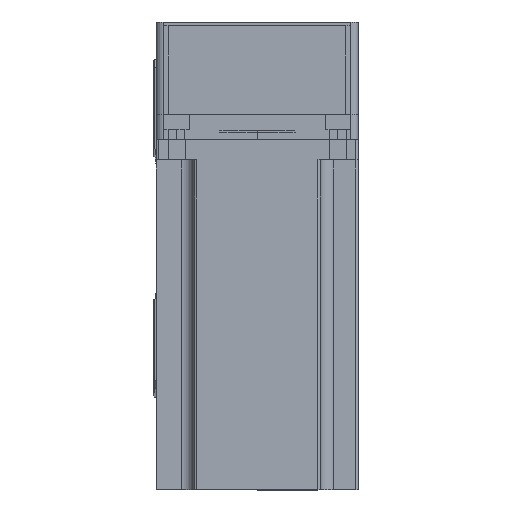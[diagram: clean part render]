
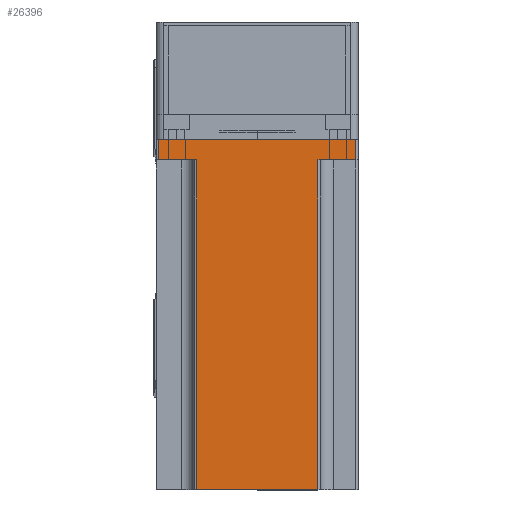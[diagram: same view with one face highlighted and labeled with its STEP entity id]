
A CAD part, top view. The second image highlights one B-rep face of the part: STEP entity #26396.
In plain terms, the highlighted planar face has unit normal (0, 0, 1) as drawn and (0, 1, 0) by its records, which use the part's own axes.
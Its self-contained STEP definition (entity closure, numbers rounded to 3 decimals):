
#524 = ORIENTED_EDGE ( 'NONE', *, *, #5468, .F. ) ;
#1553 = DIRECTION ( 'NONE',  ( 0., 0., -1. ) ) ;
#1558 = CARTESIAN_POINT ( 'NONE',  ( -24., 40., 8. ) ) ;
#4128 = CARTESIAN_POINT ( 'NONE',  ( 40., 40., 0. ) ) ;
#5183 = VERTEX_POINT ( 'NONE', #41457 ) ;
#5468 = EDGE_CURVE ( 'NONE', #19927, #46653, #57691, .T. ) ;
#6178 = AXIS2_PLACEMENT_3D ( 'NONE', #40886, #12767, #45597 ) ;
#7587 = ORIENTED_EDGE ( 'NONE', *, *, #50942, .T. ) ;
#8123 = DIRECTION ( 'NONE',  ( 0., 0., -1. ) ) ;
#9276 = VECTOR ( 'NONE', #17124, 1000. ) ;
#9354 = EDGE_CURVE ( 'NONE', #37960, #46653, #50618, .T. ) ;
#11721 = LINE ( 'NONE', #13932, #36695 ) ;
#12224 = VECTOR ( 'NONE', #36980, 1000. ) ;
#12239 = EDGE_CURVE ( 'NONE', #19927, #20470, #36946, .T. ) ;
#12767 = DIRECTION ( 'NONE',  ( 0., -1., 0. ) ) ;
#13130 = CARTESIAN_POINT ( 'NONE',  ( -24., 40., 138.3 ) ) ;
#13742 = CARTESIAN_POINT ( 'NONE',  ( -39., 40., 0. ) ) ;
#13932 = CARTESIAN_POINT ( 'NONE',  ( 25., 40., 8. ) ) ;
#14748 = LINE ( 'NONE', #48063, #38251 ) ;
#17124 = DIRECTION ( 'NONE',  ( -1., 0., 0. ) ) ;
#17750 = CARTESIAN_POINT ( 'NONE',  ( 39., 40., 0. ) ) ;
#18001 = CARTESIAN_POINT ( 'NONE',  ( -25., 40., 8. ) ) ;
#18899 = ORIENTED_EDGE ( 'NONE', *, *, #33980, .F. ) ;
#19927 = VERTEX_POINT ( 'NONE', #32681 ) ;
#20426 = EDGE_LOOP ( 'NONE', ( #56301, #57363, #524, #21074, #18899, #49916, #7587, #27918 ) ) ;
#20470 = VERTEX_POINT ( 'NONE', #42509 ) ;
#21074 = ORIENTED_EDGE ( 'NONE', *, *, #12239, .T. ) ;
#21503 = VECTOR ( 'NONE', #8123, 1000. ) ;
#22687 = DIRECTION ( 'NONE',  ( 1., 0., 0. ) ) ;
#23210 = LINE ( 'NONE', #4128, #12224 ) ;
#24541 = VECTOR ( 'NONE', #22687, 1000. ) ;
#25988 = LINE ( 'NONE', #18001, #24541 ) ;
#26396 = ADVANCED_FACE ( 'NONE', ( #44205 ), #40491, .F. ) ;
#26518 = VECTOR ( 'NONE', #1553, 1000. ) ;
#27138 = VECTOR ( 'NONE', #50654, 1000. ) ;
#27918 = ORIENTED_EDGE ( 'NONE', *, *, #51846, .T. ) ;
#32681 = CARTESIAN_POINT ( 'NONE',  ( 24., 40., 138.3 ) ) ;
#33286 = EDGE_CURVE ( 'NONE', #48389, #44208, #51493, .T. ) ;
#33980 = EDGE_CURVE ( 'NONE', #48389, #20470, #11721, .T. ) ;
#36244 = CARTESIAN_POINT ( 'NONE',  ( 24., 40., 138.3 ) ) ;
#36695 = VECTOR ( 'NONE', #51251, 1000. ) ;
#36946 = LINE ( 'NONE', #36244, #21503 ) ;
#36980 = DIRECTION ( 'NONE',  ( -1., 0., 0. ) ) ;
#37960 = VERTEX_POINT ( 'NONE', #1558 ) ;
#38251 = VECTOR ( 'NONE', #38678, 1000. ) ;
#38678 = DIRECTION ( 'NONE',  ( 0., 0., 1. ) ) ;
#40491 = PLANE ( 'NONE',  #6178 ) ;
#40781 = VERTEX_POINT ( 'NONE', #13742 ) ;
#40886 = CARTESIAN_POINT ( 'NONE',  ( 40., 40., 138.3 ) ) ;
#41457 = CARTESIAN_POINT ( 'NONE',  ( -39., 40., 8. ) ) ;
#42509 = CARTESIAN_POINT ( 'NONE',  ( 24., 40., 8. ) ) ;
#44205 = FACE_OUTER_BOUND ( 'NONE', #20426, .T. ) ;
#44208 = VERTEX_POINT ( 'NONE', #17750 ) ;
#45417 = EDGE_CURVE ( 'NONE', #5183, #37960, #25988, .T. ) ;
#45597 = DIRECTION ( 'NONE',  ( 1., 0., 0. ) ) ;
#46653 = VERTEX_POINT ( 'NONE', #60035 ) ;
#48063 = CARTESIAN_POINT ( 'NONE',  ( -39., 40., 138.3 ) ) ;
#48250 = CARTESIAN_POINT ( 'NONE',  ( 39., 40., 138.3 ) ) ;
#48389 = VERTEX_POINT ( 'NONE', #50823 ) ;
#49916 = ORIENTED_EDGE ( 'NONE', *, *, #33286, .T. ) ;
#49923 = CARTESIAN_POINT ( 'NONE',  ( 40., 40., 138.3 ) ) ;
#50618 = LINE ( 'NONE', #13130, #27138 ) ;
#50654 = DIRECTION ( 'NONE',  ( 0., 0., 1. ) ) ;
#50823 = CARTESIAN_POINT ( 'NONE',  ( 39., 40., 8. ) ) ;
#50942 = EDGE_CURVE ( 'NONE', #44208, #40781, #23210, .T. ) ;
#51251 = DIRECTION ( 'NONE',  ( -1., 0., 0. ) ) ;
#51493 = LINE ( 'NONE', #48250, #26518 ) ;
#51846 = EDGE_CURVE ( 'NONE', #40781, #5183, #14748, .T. ) ;
#56301 = ORIENTED_EDGE ( 'NONE', *, *, #45417, .T. ) ;
#57363 = ORIENTED_EDGE ( 'NONE', *, *, #9354, .T. ) ;
#57691 = LINE ( 'NONE', #49923, #9276 ) ;
#60035 = CARTESIAN_POINT ( 'NONE',  ( -24., 40., 138.3 ) ) ;
